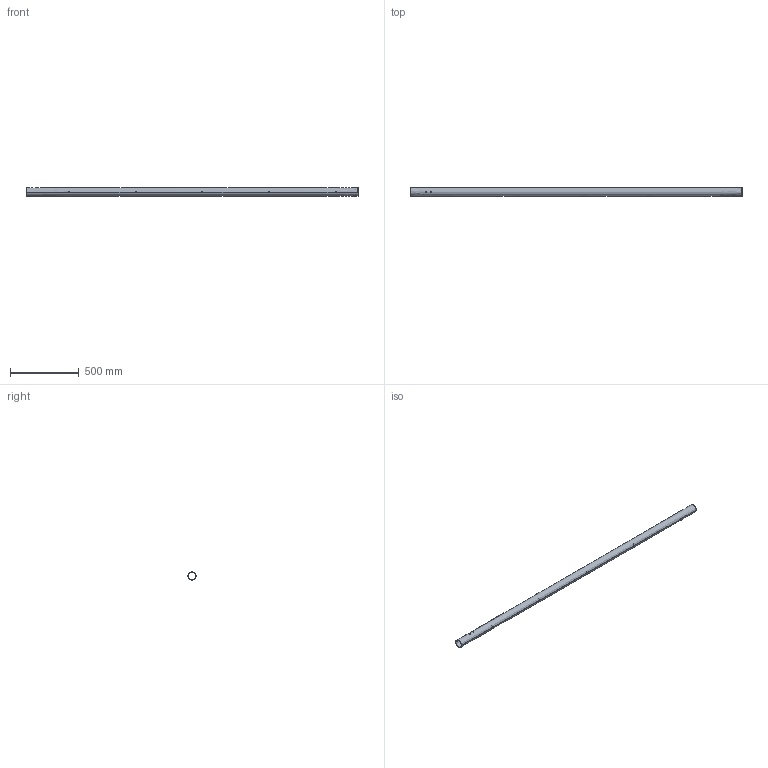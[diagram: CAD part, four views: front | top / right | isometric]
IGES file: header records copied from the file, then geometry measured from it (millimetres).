
Global section: file name: 0353-25-061; native system: VariCAD 2012-1.04; preprocessor: 5.3; author: LVVS3874K00E; organization: Elphe, Inc.; date: 20120611.020735; units: millimetre
Bounding box: 2410 x 60.33 x 60.33 mm (x, y, z)
Surface area: 872863.4 mm2 (no closed solid volume)
Topology: 0 solids, 0 shells, 78 faces, 440 edges, 440 vertices
Faces by surface type: revolution 76, bspline 2
